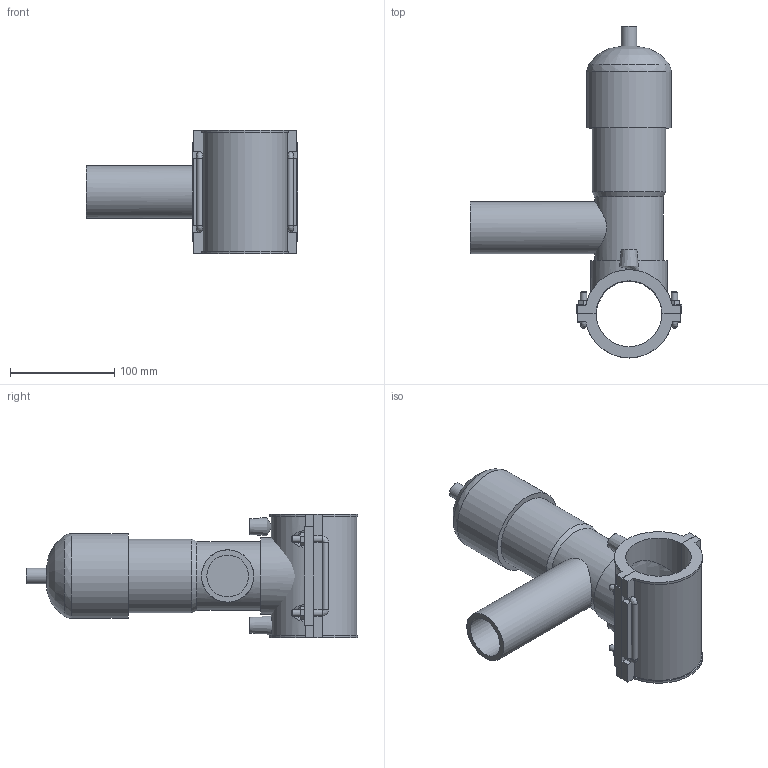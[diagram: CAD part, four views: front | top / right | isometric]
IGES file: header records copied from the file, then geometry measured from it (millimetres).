
Global section: file name: 495404063050.ipt; native system: Autodesk Inventor 2015; preprocessor: unknown; author: KIM; date: 20171106.094236; units: millimetre
Bounding box: 202.5 x 317.68 x 118 mm (x, y, z)
Volume: 1286686.1 mm3; surface area: 184937 mm2
Topology: 2 solids, 3 shells, 143 faces, 357 edges, 225 vertices
Faces by surface type: plane 91, cylinder 25, revolution 12, bspline 8, cone 7
Full cylindrical faces by diameter (mm): 4 x2, 6 x10, 14.64 x1, 50 x1, 65.88 x1, 70.76 x1, 73.2 x1, 81.333 x1
